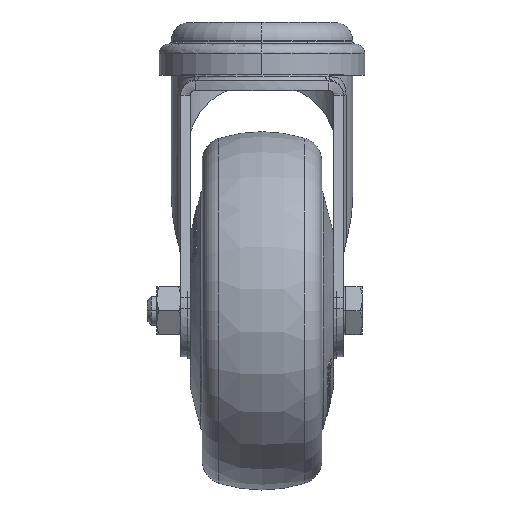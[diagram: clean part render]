
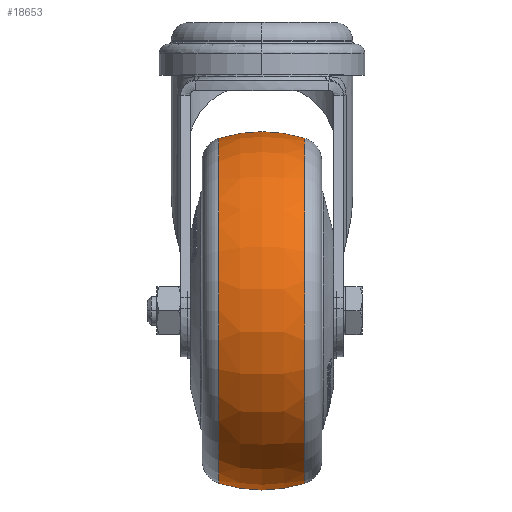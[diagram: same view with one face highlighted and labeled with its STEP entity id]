
A CAD part, top view. The second image highlights one B-rep face of the part: STEP entity #18653.
In plain terms, the highlighted toroidal (fillet/blend) face has major radius 7.5 mm and minor radius 30 mm.
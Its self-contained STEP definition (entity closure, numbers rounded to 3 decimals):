
#4683 = CARTESIAN_POINT ( 'NONE',  ( -9., 0., 0. ) ) ;
#4684 = DIRECTION ( 'NONE',  ( -1., 0., 0. ) ) ;
#4685 = DIRECTION ( 'NONE',  ( 0., 0., 1. ) ) ;
#4695 = CARTESIAN_POINT ( 'NONE',  ( 9., 0., 0. ) ) ;
#4696 = DIRECTION ( 'NONE',  ( -1., 0., 0. ) ) ;
#4697 = DIRECTION ( 'NONE',  ( 0., 0., 1. ) ) ;
#4698 = CARTESIAN_POINT ( 'NONE',  ( 0., 0., -7.5 ) ) ;
#4699 = DIRECTION ( 'NONE',  ( 0., 1., 0. ) ) ;
#4700 = DIRECTION ( 'NONE',  ( 0., 0., 1. ) ) ;
#4701 = CARTESIAN_POINT ( 'NONE',  ( 0., 0., 7.5 ) ) ;
#4702 = DIRECTION ( 'NONE',  ( 0., -1., 0. ) ) ;
#4703 = DIRECTION ( 'NONE',  ( 0., 0., -1. ) ) ;
#4838 = EDGE_LOOP ( 'NONE', ( #42842, #42840, #42838, #42837 ) ) ;
#9176 = CARTESIAN_POINT ( 'NONE',  ( 9., 0., -36.118 ) ) ;
#9199 = CARTESIAN_POINT ( 'NONE',  ( 9., 0., 36.118 ) ) ;
#9202 = CARTESIAN_POINT ( 'NONE',  ( -9., 0., -36.118 ) ) ;
#9206 = CARTESIAN_POINT ( 'NONE',  ( -9., 0., 36.118 ) ) ;
#17098 = CIRCLE ( 'NONE', #17112, 36.118 ) ;
#17112 = AXIS2_PLACEMENT_3D ( 'NONE', #4683, #4684, #4685 ) ;
#17119 = CIRCLE ( 'NONE', #17129, 36.118 ) ;
#17123 = CIRCLE ( 'NONE', #17133, 30. ) ;
#17129 = AXIS2_PLACEMENT_3D ( 'NONE', #4695, #4696, #4697 ) ;
#17131 = CIRCLE ( 'NONE', #17137, 30. ) ;
#17133 = AXIS2_PLACEMENT_3D ( 'NONE', #4698, #4699, #4700 ) ;
#17137 = AXIS2_PLACEMENT_3D ( 'NONE', #4701, #4702, #4703 ) ;
#18653 = ADVANCED_FACE ( 'NONE', ( #20311 ), #19325, .T. ) ;
#19325 = TOROIDAL_SURFACE ( 'NONE', #19330, 7.5, 30. ) ;
#19330 = AXIS2_PLACEMENT_3D ( 'NONE', #20340, #20361, #20362 ) ;
#20311 = FACE_OUTER_BOUND ( 'NONE', #4838, .T. ) ;
#20340 = CARTESIAN_POINT ( 'NONE',  ( 0., 0., 0. ) ) ;
#20361 = DIRECTION ( 'NONE',  ( -1., 0., 0. ) ) ;
#20362 = DIRECTION ( 'NONE',  ( 0., 0., 1. ) ) ;
#26844 = EDGE_CURVE ( 'NONE', #43381, #43377, #17098, .T. ) ;
#26851 = EDGE_CURVE ( 'NONE', #43371, #43336, #17119, .T. ) ;
#26852 = EDGE_CURVE ( 'NONE', #43336, #43377, #17123, .T. ) ;
#26855 = EDGE_CURVE ( 'NONE', #43371, #43381, #17131, .T. ) ;
#42837 = ORIENTED_EDGE ( 'NONE', *, *, #26855, .F. ) ;
#42838 = ORIENTED_EDGE ( 'NONE', *, *, #26844, .F. ) ;
#42840 = ORIENTED_EDGE ( 'NONE', *, *, #26852, .T. ) ;
#42842 = ORIENTED_EDGE ( 'NONE', *, *, #26851, .T. ) ;
#43336 = VERTEX_POINT ( 'NONE', #9176 ) ;
#43371 = VERTEX_POINT ( 'NONE', #9199 ) ;
#43377 = VERTEX_POINT ( 'NONE', #9202 ) ;
#43381 = VERTEX_POINT ( 'NONE', #9206 ) ;
